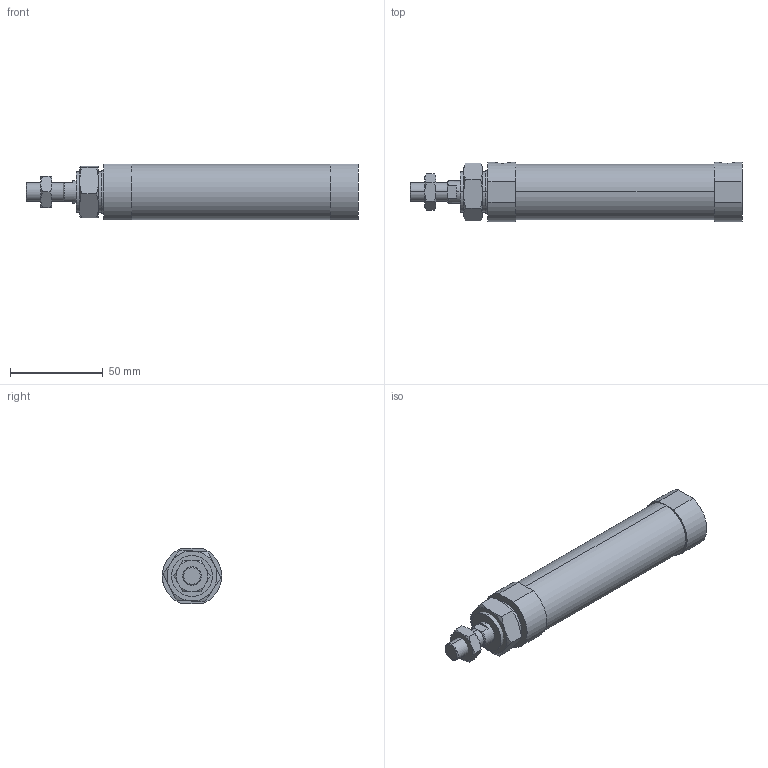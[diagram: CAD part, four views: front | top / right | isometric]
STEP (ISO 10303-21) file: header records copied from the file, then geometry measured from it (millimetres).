
FILE_DESCRIPTION (( 'STEP AP203' ), '1' );
FILE_NAME ('JGND2-25-75-N.STEP', '2016-08-04T02:38:25', ( '' ), ( '' ), 'SwSTEP 2.0', 'SolidWorks 2014', '' );
FILE_SCHEMA (( 'CONFIG_CONTROL_DESIGN' ));
Length unit declared in the file: millimetre
Products named in the file (4): JGND2-25-75-N; J#2-25-75(P)
Assembly tree (3 placements, depth 2):
  JGND2-25-75-N
    J#2-25-75(P)
    (unnamed)
    (unnamed)
Bounding box: 179 x 32 x 30 mm (x, y, z)
Volume: 108894.4 mm3; surface area: 20990.1 mm2
Topology: 3 solids, 3 shells, 89 faces, 198 edges, 116 vertices
Faces by surface type: plane 35, torus 24, cylinder 22, cone 8
Entity records: 3150 total; most frequent: CARTESIAN_POINT 845, DIRECTION 400, ORIENTED_EDGE 388, EDGE_CURVE 194, AXIS2_PLACEMENT_3D 167, VERTEX_POINT 116, EDGE_LOOP 98, FACE_OUTER_BOUND 89
